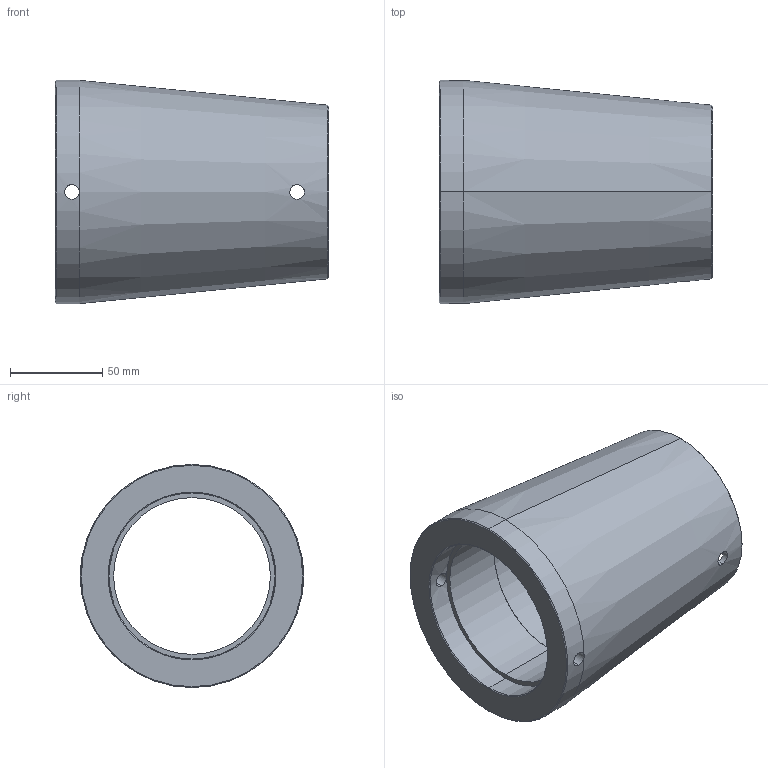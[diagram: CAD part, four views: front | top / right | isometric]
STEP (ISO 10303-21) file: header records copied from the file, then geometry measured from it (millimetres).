
FILE_DESCRIPTION (( 'STEP AP203' ), '1' );
FILE_NAME ('Abdeckhülse M85.STEP', '2018-02-21T14:19:12', ( 'install' ), ( 'Hewlett-Packard Company' ), 'SwSTEP 2.0', 'SolidWorks 2017', '' );
FILE_SCHEMA (( 'CONFIG_CONTROL_DESIGN' ));
Length unit declared in the file: millimetre
Products named in the file (1): Abdeckhülse M85
Bounding box: 148 x 121 x 121 mm (x, y, z)
Volume: 505230.6 mm3; surface area: 98446.4 mm2
Topology: 1 solids, 1 shells, 31 faces, 82 edges, 50 vertices
Faces by surface type: cylinder 18, cone 8, plane 5
Entity records: 1543 total; most frequent: CARTESIAN_POINT 696, ORIENTED_EDGE 164, DIRECTION 158, EDGE_CURVE 82, AXIS2_PLACEMENT_3D 66, VERTEX_POINT 50, EDGE_LOOP 38, CIRCLE 34
